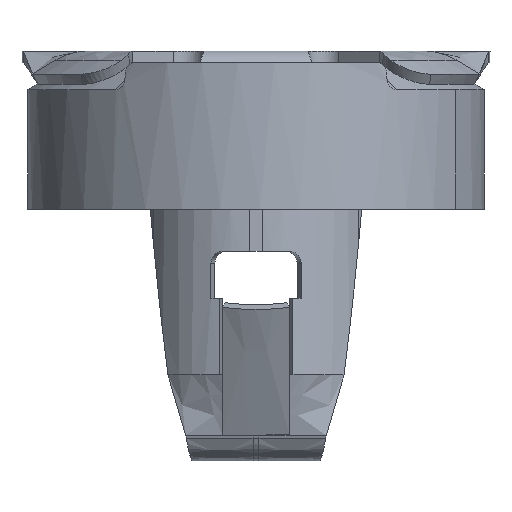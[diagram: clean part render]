
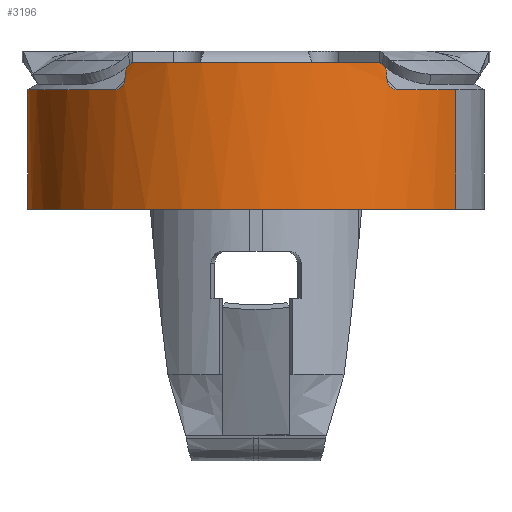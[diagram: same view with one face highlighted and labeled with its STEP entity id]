
A CAD part, left-side view. The second image highlights one B-rep face of the part: STEP entity #3196.
In plain terms, the highlighted cylindrical face has radius 3.9 mm (diameter 7.8 mm), a partial arc.
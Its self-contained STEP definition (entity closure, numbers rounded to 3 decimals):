
#431=CARTESIAN_POINT(' ',(1.889,3.412,-2.699));
#432=VERTEX_POINT(' ',#431);
#436=CARTESIAN_POINT(' ',(-1.889,-3.412,-2.699));
#437=VERTEX_POINT(' ',#436);
#451=CARTESIAN_POINT(' ',(0.,0.,-2.699));
#456=DIRECTION(' ',(0.,0.,-1.));
#461=DIRECTION(' ',(-0.484,-0.875,0.));
#466=AXIS2_PLACEMENT_3D(' ',#451,#456,#461);
#471=CIRCLE('',#466,3.9);
#476=EDGE_CURVE(' ',#437,#432,#471,.T.);
#2366=CARTESIAN_POINT(' ',(-1.889,-3.412,-2.699));
#2371=DIRECTION(' ',(0.,0.,1.));
#2376=VECTOR(' ',#2371,1.);
#2381=LINE('',#2366,#2376);
#2386=CARTESIAN_POINT(' ',(-1.889,-3.412,-0.661));
#2387=VERTEX_POINT(' ',#2386);
#2391=EDGE_CURVE(' ',#437,#2387,#2381,.T.);
#2406=CARTESIAN_POINT(' ',(1.889,3.412,-2.699));
#2411=DIRECTION(' ',(0.,0.,1.));
#2416=VECTOR(' ',#2411,1.);
#2421=LINE('',#2406,#2416);
#2426=CARTESIAN_POINT(' ',(1.889,3.412,-0.661));
#2427=VERTEX_POINT(' ',#2426);
#2431=EDGE_CURVE(' ',#432,#2427,#2421,.T.);
#2801=CARTESIAN_POINT(' ',(0.,0.,0.));
#2806=DIRECTION(' ',(0.,0.,-1.));
#2811=DIRECTION(' ',(-0.484,-0.875,0.));
#2816=AXIS2_PLACEMENT_3D(' ',#2801,#2806,#2811);
#2821=CYLINDRICAL_SURFACE(' ',#2816,3.9);
#2826=CARTESIAN_POINT(' ',(0.,0.,-0.661));
#2831=DIRECTION(' ',(0.,0.,-1.));
#2836=DIRECTION(' ',(-0.484,-0.875,0.));
#2841=AXIS2_PLACEMENT_3D(' ',#2826,#2831,#2836);
#2846=CIRCLE('',#2841,3.9);
#2851=CARTESIAN_POINT(' ',(-3.079,-2.394,-0.661));
#2852=VERTEX_POINT(' ',#2851);
#2856=EDGE_CURVE(' ',#2387,#2852,#2846,.T.);
#2861=ORIENTED_EDGE(' ',*,*,#2856,.T.);
#2866=CARTESIAN_POINT(' ',(-3.066,-2.408,-0.447));
#2871=DIRECTION(' ',(0.798,0.603,-0.01));
#2876=DIRECTION(' ',(-0.062,0.066,-0.996));
#2881=AXIS2_PLACEMENT_3D(' ',#2866,#2871,#2876);
#2886=CIRCLE('',#2881,0.215);
#2891=CARTESIAN_POINT(' ',(-3.195,-2.237,-0.433));
#2892=VERTEX_POINT(' ',#2891);
#2896=EDGE_CURVE(' ',#2852,#2892,#2886,.T.);
#2901=ORIENTED_EDGE(' ',*,*,#2896,.T.);
#2906=CARTESIAN_POINT(' ',(-3.195,-2.237,-0.433));
#2911=DIRECTION(' ',(0.,0.,1.));
#2916=VECTOR(' ',#2911,1.);
#2921=LINE('',#2906,#2916);
#2926=CARTESIAN_POINT(' ',(-3.195,-2.237,-0.399));
#2927=VERTEX_POINT(' ',#2926);
#2931=EDGE_CURVE(' ',#2892,#2927,#2921,.T.);
#2936=ORIENTED_EDGE(' ',*,*,#2931,.T.);
#2941=CARTESIAN_POINT(' ',(-3.303,-2.069,-0.399));
#2946=DIRECTION(' ',(-0.84,-0.543,-0.011));
#2951=DIRECTION(' ',(0.543,-0.84,0.));
#2956=AXIS2_PLACEMENT_3D(' ',#2941,#2946,#2951);
#2961=CIRCLE('',#2956,0.2);
#2966=CARTESIAN_POINT(' ',(-3.305,-2.07,-0.199));
#2967=VERTEX_POINT(' ',#2966);
#2971=EDGE_CURVE(' ',#2927,#2967,#2961,.T.);
#2976=ORIENTED_EDGE(' ',*,*,#2971,.T.);
#2981=CARTESIAN_POINT(' ',(0.,0.,-0.199));
#2986=DIRECTION(' ',(0.,0.,1.));
#2991=DIRECTION(' ',(-0.848,0.531,0.));
#2996=AXIS2_PLACEMENT_3D(' ',#2981,#2986,#2991);
#3001=CIRCLE('',#2996,3.9);
#3006=CARTESIAN_POINT(' ',(-3.305,2.07,-0.199));
#3007=VERTEX_POINT(' ',#3006);
#3011=EDGE_CURVE(' ',#3007,#2967,#3001,.T.);
#3016=ORIENTED_EDGE(' ',*,*,#3011,.F.);
#3021=CARTESIAN_POINT(' ',(-3.303,2.069,-0.399));
#3026=DIRECTION(' ',(-0.84,0.542,-0.012));
#3031=DIRECTION(' ',(-0.011,0.006,1.));
#3036=AXIS2_PLACEMENT_3D(' ',#3021,#3026,#3031);
#3041=CIRCLE('',#3036,0.2);
#3046=CARTESIAN_POINT(' ',(-3.195,2.237,-0.399));
#3047=VERTEX_POINT(' ',#3046);
#3051=EDGE_CURVE(' ',#3007,#3047,#3041,.T.);
#3056=ORIENTED_EDGE(' ',*,*,#3051,.T.);
#3061=CARTESIAN_POINT(' ',(-3.195,2.237,-0.433));
#3066=DIRECTION(' ',(0.,0.,1.));
#3071=VECTOR(' ',#3066,1.);
#3076=LINE('',#3061,#3071);
#3081=CARTESIAN_POINT(' ',(-3.195,2.237,-0.433));
#3082=VERTEX_POINT(' ',#3081);
#3086=EDGE_CURVE(' ',#3082,#3047,#3076,.T.);
#3091=ORIENTED_EDGE(' ',*,*,#3086,.F.);
#3096=CARTESIAN_POINT(' ',(-3.065,2.409,-0.445));
#3101=DIRECTION(' ',(0.799,-0.602,-0.008));
#3106=DIRECTION(' ',(-0.6,-0.798,0.058));
#3111=AXIS2_PLACEMENT_3D(' ',#3096,#3101,#3106);
#3116=CIRCLE('',#3111,0.216);
#3121=CARTESIAN_POINT(' ',(-3.079,2.394,-0.661));
#3122=VERTEX_POINT(' ',#3121);
#3126=EDGE_CURVE(' ',#3082,#3122,#3116,.T.);
#3131=ORIENTED_EDGE(' ',*,*,#3126,.T.);
#3136=CARTESIAN_POINT(' ',(0.,0.,-0.661));
#3141=DIRECTION(' ',(0.,0.,-1.));
#3146=DIRECTION(' ',(-0.789,0.614,0.));
#3151=AXIS2_PLACEMENT_3D(' ',#3136,#3141,#3146);
#3156=CIRCLE('',#3151,3.9);
#3161=EDGE_CURVE(' ',#3122,#2427,#3156,.T.);
#3166=ORIENTED_EDGE(' ',*,*,#3161,.T.);
#3171=ORIENTED_EDGE(' ',*,*,#2431,.F.);
#3176=ORIENTED_EDGE(' ',*,*,#476,.F.);
#3181=ORIENTED_EDGE(' ',*,*,#2391,.T.);
#3186=EDGE_LOOP(' ',(#2861,#2901,#2936,#2976,#3016,#3056,#3091,#3131,#3166,#3171,#3176,#3181));
#3191=FACE_OUTER_BOUND(' ',#3186,.T.);
#3196=ADVANCED_FACE('',(#3191),#2821,.T.);
